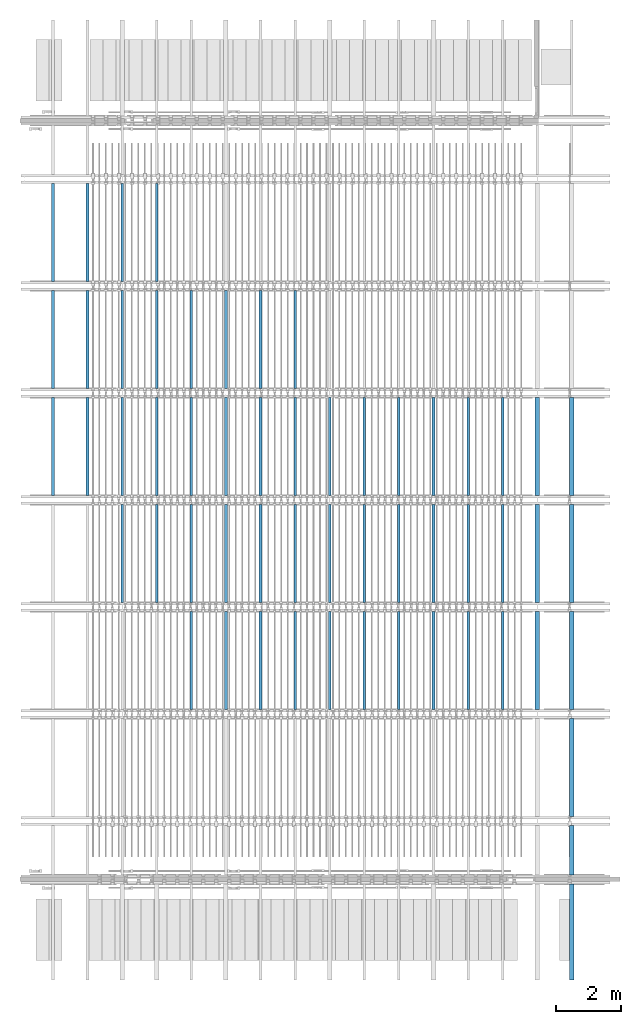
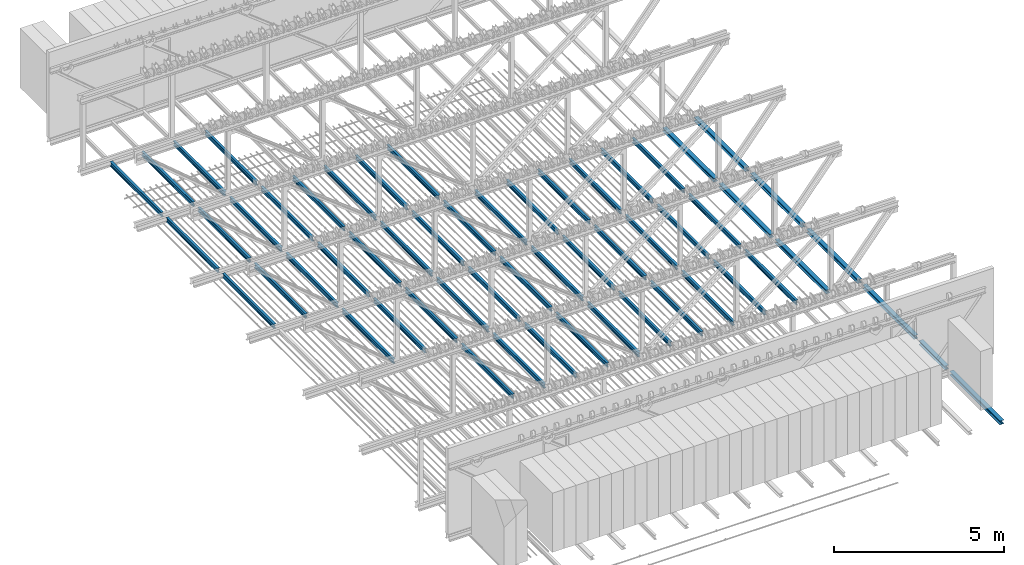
# One storey, part 2 of 8: 57 beams.
"""IFC2X3 building model written with IfcOpenShell, lengths in millimetres."""

from ifc_helpers import new_model, entity, si_unit, converted_unit, direction, frame, frame_2d, origin, place, context, subcontext, project, spatial, i_section, extrude, material, type_object, element, save


model = new_model("IFC2X3")

# Units and contexts
model_context = context("Model", 3, precision=0.01, world=origin(), true_north=direction((6.123233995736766e-17, 1.0)))
body_context = subcontext(model_context, "Body", "Model", "MODEL_VIEW")
ifc_project = project(units=[si_unit("LENGTHUNIT", "METRE", prefix="MILLI"), si_unit("AREAUNIT", "SQUARE_METRE"), converted_unit("PLANEANGLEUNIT", "DEGREE", entity("IfcPlaneAngleMeasure", 0.017453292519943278), si_unit("PLANEANGLEUNIT", "RADIAN"), dimensions=[0, 0, 0, 0, 0, 0, 0])], contexts=[model_context])

# Site, building, storey
site_placement = place(None, origin())
site = spatial("IfcSite", under=ifc_project, at=site_placement, Name="Default", CompositionType="ELEMENT")
building_placement = place(site_placement, origin())
building = spatial("IfcBuilding", under=site, at=building_placement, CompositionType="ELEMENT")
storey_placement = place(building_placement, frame((0.0, 0.0, 30550.0)))
storey = spatial("IfcBuildingStorey", under=building, at=storey_placement, Name="Rollenzolder", CompositionType="ELEMENT", Elevation=30550.000000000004)

# Beams
ifc_material = material(Name="Staal PBTA")
beam_type_1 = type_object("IfcBeamType", Name="H-Balk:HEA140", PredefinedType="BEAM")
for number, where, z_axis, x_axis, name in (
    (1, (23603.411598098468, 24672.667906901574, -30.0), (0.0, 0.0, 1.0), (0.0, 1.0, 0.0), "H-Balk:HEA140"),
    (2, (23603.411598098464, 21372.667906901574, -30.0), (0.0, 0.0, 1.0), (0.0, 1.0, 0.0), "H-Balk:HEA140"),
):
    element("IfcBeam", number, at=place(storey_placement, frame(where, z_axis=z_axis, x_axis=x_axis)), inside=storey, type_object=beam_type_1, material=ifc_material, Name=name, ObjectType="H-Balk:HEA140", context=body_context, shape_type="SweptSolid", body=[
        extrude(i_section(OverallWidth=140.0000000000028, OverallDepth=133.00000000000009, WebThickness=5.4999999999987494, FlangeThickness=8.5000000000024, FilletRadius=12.000000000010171, at=frame_2d((2.1600499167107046e-12, 2.1600499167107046e-12), x_axis=(0.0, 1.0))), frame((0.0, 0.0, -66.5000000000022), z_axis=(1.0, 0.0, 0.0), x_axis=(0.0, 0.0, -1.0)), (0.0, 0.0, 1.0), 3016.9999999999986),
    ])
beam_1_placement = place(storey_placement, frame((23603.41159809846, 18072.66790690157, -30.0), z_axis=(0.0, 0.0, 1.0), x_axis=(0.0, 1.0, 0.0)))
element("IfcBeam", 3, at=beam_1_placement, inside=storey, type_object=beam_type_1, material=ifc_material, Name="H-Balk:HEA140", ObjectType="H-Balk:HEA140", context=body_context, shape_type="SweptSolid", body=[
    extrude(i_section(OverallWidth=140.0000000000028, OverallDepth=133.00000000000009, WebThickness=5.4999999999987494, FlangeThickness=8.5000000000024, FilletRadius=12.000000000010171, at=frame_2d((2.1600499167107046e-12, 2.1600499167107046e-12), x_axis=(0.0, 1.0))), frame((0.0, 0.0, -66.5000000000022), z_axis=(1.0, 0.0, 0.0), x_axis=(0.0, 0.0, -1.0)), (0.0, 0.0, 1.0), 3017.0000000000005),
])
beam_2_placement = place(storey_placement, frame((23603.411598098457, 14772.66790690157, -30.0), z_axis=(0.0, 0.0, 1.0), x_axis=(0.0, 1.0, 0.0)))
element("IfcBeam", 4, at=beam_2_placement, inside=storey, type_object=beam_type_1, material=ifc_material, Name="H-Balk:HEA140", ObjectType="H-Balk:HEA140", context=body_context, shape_type="SweptSolid", body=[
    extrude(i_section(OverallWidth=140.0000000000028, OverallDepth=133.00000000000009, WebThickness=5.4999999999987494, FlangeThickness=8.5000000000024, FilletRadius=12.000000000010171, at=frame_2d((2.1600499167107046e-12, -2.1600499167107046e-12), x_axis=(0.0, 1.0))), frame((0.0, 0.0, -66.5000000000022), z_axis=(1.0, 0.0, 0.0), x_axis=(0.0, 0.0, -1.0)), (0.0, 0.0, 1.0), 3017.0000000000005),
])
beam_3_placement = place(storey_placement, frame((23603.411598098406, 12689.66790690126, -30.0), z_axis=(0.0, 0.0, 1.0), x_axis=(0.0, -1.0, 0.0)))
element("IfcBeam", 5, at=beam_3_placement, inside=storey, type_object=beam_type_1, material=ifc_material, Name="H-Balk:HEA140", ObjectType="H-Balk:HEA140", context=body_context, shape_type="SweptSolid", body=[
    extrude(i_section(OverallWidth=139.9999999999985, OverallDepth=132.99999999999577, WebThickness=5.4999999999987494, FlangeThickness=8.499999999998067, FilletRadius=12.000000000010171, at=frame_2d((0.0, 2.1600499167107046e-12), x_axis=(0.0, 1.0))), frame((0.24999999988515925, 0.0, -66.5000000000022), z_axis=(1.0, 0.0, 0.0), x_axis=(0.0, 0.0, -1.0)), (0.0, 0.0, 1.0), 2958.000000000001),
])
beam_4_placement = place(storey_placement, frame((23603.411598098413, 14489.667906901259, -30.0), z_axis=(0.0, 0.0, 1.0), x_axis=(0.0, -1.0, 0.0)))
element("IfcBeam", 6, at=beam_4_placement, inside=storey, type_object=beam_type_1, material=ifc_material, Name="H-Balk:HEA140", ObjectType="H-Balk:HEA140", context=body_context, shape_type="SweptSolid", body=[
    extrude(i_section(OverallWidth=140.0000000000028, OverallDepth=132.99999999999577, WebThickness=5.4999999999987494, FlangeThickness=8.499999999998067, FilletRadius=12.000000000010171, at=frame_2d((0.0, 2.1600499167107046e-12), x_axis=(0.0, 1.0))), frame((0.0, 0.0, -66.5000000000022), z_axis=(1.0, 0.0, 0.0), x_axis=(0.0, 0.0, -1.0)), (0.0, 0.0, 1.0), 1517.0000000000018),
])
for number, where, z_axis, x_axis, name in (
    (7, (22536.744931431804, 24672.667906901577, -30.0), (0.0, 0.0, 1.0), (0.0, 1.0, 0.0), "H-Balk:HEA140"),
    (8, (22536.7449314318, 21372.66790690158, -30.0), (0.0, 0.0, 1.0), (0.0, 1.0, 0.0), "H-Balk:HEA140"),
):
    element("IfcBeam", number, at=place(storey_placement, frame(where, z_axis=z_axis, x_axis=x_axis)), inside=storey, type_object=beam_type_1, material=ifc_material, Name=name, ObjectType="H-Balk:HEA140", context=body_context, shape_type="SweptSolid", body=[
        extrude(i_section(OverallWidth=140.0000000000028, OverallDepth=133.00000000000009, WebThickness=5.4999999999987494, FlangeThickness=8.5000000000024, FilletRadius=12.000000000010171, at=frame_2d((2.1600499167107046e-12, -2.1600499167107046e-12), x_axis=(0.0, 1.0))), frame((0.0, 0.0, -66.5000000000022), z_axis=(1.0, 0.0, 0.0), x_axis=(0.0, 0.0, -1.0)), (0.0, 0.0, 1.0), 3016.9999999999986),
    ])
beam_5_placement = place(storey_placement, frame((22536.744931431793, 18072.667906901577, -30.0), z_axis=(0.0, 0.0, 1.0), x_axis=(0.0, 1.0, 0.0)))
element("IfcBeam", 9, at=beam_5_placement, inside=storey, type_object=beam_type_1, material=ifc_material, Name="H-Balk:HEA140", ObjectType="H-Balk:HEA140", context=body_context, shape_type="SweptSolid", body=[
    extrude(i_section(OverallWidth=140.0000000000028, OverallDepth=133.00000000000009, WebThickness=5.4999999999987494, FlangeThickness=8.5000000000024, FilletRadius=12.000000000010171, at=frame_2d((2.1600499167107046e-12, 2.1600499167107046e-12), x_axis=(0.0, 1.0))), frame((0.0, 0.0, -66.5000000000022), z_axis=(1.0, 0.0, 0.0), x_axis=(0.0, 0.0, -1.0)), (0.0, 0.0, 1.0), 3017.0000000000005),
])
beam_type_2 = type_object("IfcBeamType", Name="IPE-Balk:IPE160", PredefinedType="BEAM")
beam_6_placement = place(storey_placement, frame((10803.411598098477, 31272.667906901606, -30.0), z_axis=(0.0, 0.0, 1.0), x_axis=(0.0, 1.0, 0.0)))
element("IfcBeam", 10, at=beam_6_placement, inside=storey, type_object=beam_type_2, material=ifc_material, Name="IPE-Balk:IPE160", ObjectType="IPE-Balk:IPE160", context=body_context, shape_type="SweptSolid", body=[
    extrude(i_section(OverallWidth=82.00000000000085, OverallDepth=159.9999999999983, WebThickness=5.0000000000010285, FlangeThickness=7.399999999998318, FilletRadius=8.999999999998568, at=frame_2d((-4.32720526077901e-12, -1.0835776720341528e-12), x_axis=(0.0, 1.0))), frame((0.0, 0.0, -80.0), z_axis=(1.0, 0.0, 0.0), x_axis=(0.0, 0.0, -1.0)), (0.0, 0.0, 1.0), 3016.9999999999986),
])
beam_7_placement = place(storey_placement, frame((10803.411598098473, 27972.66790690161, -30.0), z_axis=(0.0, 0.0, 1.0), x_axis=(0.0, 1.0, 0.0)))
element("IfcBeam", 11, at=beam_7_placement, inside=storey, type_object=beam_type_2, material=ifc_material, Name="IPE-Balk:IPE160", ObjectType="IPE-Balk:IPE160", context=body_context, shape_type="SweptSolid", body=[
    extrude(i_section(OverallWidth=82.00000000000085, OverallDepth=159.9999999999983, WebThickness=5.0000000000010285, FlangeThickness=7.399999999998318, FilletRadius=8.999999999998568, at=frame_2d((-4.32720526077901e-12, 1.0835776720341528e-12), x_axis=(0.0, 1.0))), frame((0.0, 0.0, -80.0), z_axis=(1.0, 0.0, 0.0), x_axis=(0.0, 0.0, -1.0)), (0.0, 0.0, 1.0), 3017.0000000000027),
])
beam_8_placement = place(storey_placement, frame((11870.07826476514, 27972.66790690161, -30.0), z_axis=(0.0, 0.0, 1.0), x_axis=(0.0, 1.0, 0.0)))
element("IfcBeam", 12, at=beam_8_placement, inside=storey, type_object=beam_type_2, material=ifc_material, Name="IPE-Balk:IPE160", ObjectType="IPE-Balk:IPE160", context=body_context, shape_type="SweptSolid", body=[
    extrude(i_section(OverallWidth=82.00000000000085, OverallDepth=159.9999999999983, WebThickness=5.0000000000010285, FlangeThickness=7.399999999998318, FilletRadius=8.999999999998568, at=frame_2d((-4.32720526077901e-12, -1.0835776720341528e-12), x_axis=(0.0, 1.0))), frame((0.0, 0.0, -80.0), z_axis=(1.0, 0.0, 0.0), x_axis=(0.0, 0.0, -1.0)), (0.0, 0.0, 1.0), 3017.0000000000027),
])
beam_9_placement = place(storey_placement, frame((10803.411598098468, 24672.66790690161, -30.0), z_axis=(0.0, 0.0, 1.0), x_axis=(0.0, 1.0, 0.0)))
element("IfcBeam", 13, at=beam_9_placement, inside=storey, type_object=beam_type_2, material=ifc_material, Name="IPE-Balk:IPE160", ObjectType="IPE-Balk:IPE160", context=body_context, shape_type="SweptSolid", body=[
    extrude(i_section(OverallWidth=82.00000000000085, OverallDepth=159.9999999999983, WebThickness=5.0000000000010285, FlangeThickness=7.399999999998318, FilletRadius=8.999999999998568, at=frame_2d((-4.32720526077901e-12, 1.0835776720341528e-12), x_axis=(0.0, 1.0))), frame((0.0, 0.0, -80.0), z_axis=(1.0, 0.0, 0.0), x_axis=(0.0, 0.0, -1.0)), (0.0, 0.0, 1.0), 3016.9999999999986),
])
for number, where, z_axis, x_axis, name in (
    (14, (11870.078264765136, 24672.66790690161, -30.0), (0.0, 0.0, 1.0), (0.0, 1.0, 0.0), "IPE-Balk:IPE160"),
    (15, (10803.411598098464, 21372.66790690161, -30.0), (0.0, 0.0, 1.0), (0.0, 1.0, 0.0), "IPE-Balk:IPE160"),
    (16, (11870.07826476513, 21372.66790690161, -30.0), (0.0, 0.0, 1.0), (0.0, 1.0, 0.0), "IPE-Balk:IPE160"),
):
    element("IfcBeam", number, at=place(storey_placement, frame(where, z_axis=z_axis, x_axis=x_axis)), inside=storey, type_object=beam_type_2, material=ifc_material, Name=name, ObjectType="IPE-Balk:IPE160", context=body_context, shape_type="SweptSolid", body=[
        extrude(i_section(OverallWidth=82.00000000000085, OverallDepth=159.9999999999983, WebThickness=5.0000000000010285, FlangeThickness=7.399999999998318, FilletRadius=8.999999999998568, at=frame_2d((-4.32720526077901e-12, 1.0835776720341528e-12), x_axis=(0.0, 1.0))), frame((0.0, 0.0, -80.0), z_axis=(1.0, 0.0, 0.0), x_axis=(0.0, 0.0, -1.0)), (0.0, 0.0, 1.0), 3017.0000000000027),
    ])
beam_10_placement = place(storey_placement, frame((11870.078264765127, 18072.66790690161, -30.0), z_axis=(0.0, 0.0, 1.0), x_axis=(0.0, 1.0, 0.0)))
element("IfcBeam", 17, at=beam_10_placement, inside=storey, type_object=beam_type_2, material=ifc_material, Name="IPE-Balk:IPE160", ObjectType="IPE-Balk:IPE160", context=body_context, shape_type="SweptSolid", body=[
    extrude(i_section(OverallWidth=82.00000000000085, OverallDepth=159.9999999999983, WebThickness=5.0000000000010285, FlangeThickness=7.399999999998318, FilletRadius=8.999999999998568, at=frame_2d((-4.32720526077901e-12, 1.0835776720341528e-12), x_axis=(0.0, 1.0))), frame((0.0, 0.0, -80.0), z_axis=(1.0, 0.0, 0.0), x_axis=(0.0, 0.0, -1.0)), (0.0, 0.0, 1.0), 3017.0000000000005),
])
for number, where, z_axis, x_axis, name in (
    (18, (14003.411598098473, 27972.6679069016, -30.0), (0.0, 0.0, 1.0), (0.0, 1.0, 0.0), "IPE-Balk:IPE160"),
    (19, (15070.07826476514, 27972.6679069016, -30.0), (0.0, 0.0, 1.0), (0.0, 1.0, 0.0), "IPE-Balk:IPE160"),
):
    element("IfcBeam", number, at=place(storey_placement, frame(where, z_axis=z_axis, x_axis=x_axis)), inside=storey, type_object=beam_type_2, material=ifc_material, Name=name, ObjectType="IPE-Balk:IPE160", context=body_context, shape_type="SweptSolid", body=[
        extrude(i_section(OverallWidth=82.00000000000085, OverallDepth=159.9999999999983, WebThickness=5.0000000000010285, FlangeThickness=7.399999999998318, FilletRadius=8.999999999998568, at=frame_2d((-4.32720526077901e-12, -1.0835776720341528e-12), x_axis=(0.0, 1.0))), frame((0.0, 0.0, -80.0), z_axis=(1.0, 0.0, 0.0), x_axis=(0.0, 0.0, -1.0)), (0.0, 0.0, 1.0), 3017.0000000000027),
    ])
beam_11_placement = place(storey_placement, frame((14003.41159809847, 24672.6679069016, -30.0), z_axis=(0.0, 0.0, 1.0), x_axis=(0.0, 1.0, 0.0)))
element("IfcBeam", 20, at=beam_11_placement, inside=storey, type_object=beam_type_2, material=ifc_material, Name="IPE-Balk:IPE160", ObjectType="IPE-Balk:IPE160", context=body_context, shape_type="SweptSolid", body=[
    extrude(i_section(OverallWidth=82.00000000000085, OverallDepth=159.9999999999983, WebThickness=5.0000000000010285, FlangeThickness=7.399999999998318, FilletRadius=8.999999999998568, at=frame_2d((-4.32720526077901e-12, 1.0835776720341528e-12), x_axis=(0.0, 1.0))), frame((0.0, 0.0, -80.0), z_axis=(1.0, 0.0, 0.0), x_axis=(0.0, 0.0, -1.0)), (0.0, 0.0, 1.0), 3016.9999999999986),
])
beam_12_placement = place(storey_placement, frame((15070.078264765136, 24672.6679069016, -30.0), z_axis=(0.0, 0.0, 1.0), x_axis=(0.0, 1.0, 0.0)))
element("IfcBeam", 21, at=beam_12_placement, inside=storey, type_object=beam_type_2, material=ifc_material, Name="IPE-Balk:IPE160", ObjectType="IPE-Balk:IPE160", context=body_context, shape_type="SweptSolid", body=[
    extrude(i_section(OverallWidth=82.00000000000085, OverallDepth=159.9999999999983, WebThickness=5.0000000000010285, FlangeThickness=7.399999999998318, FilletRadius=8.999999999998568, at=frame_2d((-4.32720526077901e-12, 1.0835776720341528e-12), x_axis=(0.0, 1.0))), frame((0.0, 0.0, -80.0), z_axis=(1.0, 0.0, 0.0), x_axis=(0.0, 0.0, -1.0)), (0.0, 0.0, 1.0), 3017.0000000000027),
])
for number, where, z_axis, x_axis, name in (
    (22, (14003.411598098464, 21372.667906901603, -30.0), (0.0, 0.0, 1.0), (0.0, 1.0, 0.0), "IPE-Balk:IPE160"),
    (23, (15070.078264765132, 21372.667906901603, -30.0), (0.0, 0.0, 1.0), (0.0, 1.0, 0.0), "IPE-Balk:IPE160"),
):
    element("IfcBeam", number, at=place(storey_placement, frame(where, z_axis=z_axis, x_axis=x_axis)), inside=storey, type_object=beam_type_2, material=ifc_material, Name=name, ObjectType="IPE-Balk:IPE160", context=body_context, shape_type="SweptSolid", body=[
        extrude(i_section(OverallWidth=82.00000000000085, OverallDepth=159.9999999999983, WebThickness=5.0000000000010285, FlangeThickness=7.399999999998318, FilletRadius=8.999999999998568, at=frame_2d((-4.32720526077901e-12, 3.247180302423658e-12), x_axis=(0.0, 1.0))), frame((0.0, 0.0, -80.0), z_axis=(1.0, 0.0, 0.0), x_axis=(0.0, 0.0, -1.0)), (0.0, 0.0, 1.0), 3017.0000000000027),
    ])
for number, where, z_axis, x_axis, name in (
    (24, (14003.41159809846, 18072.667906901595, -30.0), (0.0, 0.0, 1.0), (0.0, 1.0, 0.0), "IPE-Balk:IPE160"),
    (25, (15070.078264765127, 18072.6679069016, -30.0), (0.0, 0.0, 1.0), (0.0, 1.0, 0.0), "IPE-Balk:IPE160"),
):
    element("IfcBeam", number, at=place(storey_placement, frame(where, z_axis=z_axis, x_axis=x_axis)), inside=storey, type_object=beam_type_2, material=ifc_material, Name=name, ObjectType="IPE-Balk:IPE160", context=body_context, shape_type="SweptSolid", body=[
        extrude(i_section(OverallWidth=82.00000000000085, OverallDepth=159.9999999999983, WebThickness=5.0000000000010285, FlangeThickness=7.399999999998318, FilletRadius=8.999999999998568, at=frame_2d((-4.32720526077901e-12, 1.0835776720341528e-12), x_axis=(0.0, 1.0))), frame((0.0, 0.0, -80.0), z_axis=(1.0, 0.0, 0.0), x_axis=(0.0, 0.0, -1.0)), (0.0, 0.0, 1.0), 3017.0000000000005),
    ])
beam_13_placement = place(storey_placement, frame((17203.411598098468, 24672.66790690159, -30.0), z_axis=(0.0, 0.0, 1.0), x_axis=(0.0, 1.0, 0.0)))
element("IfcBeam", 26, at=beam_13_placement, inside=storey, type_object=beam_type_2, material=ifc_material, Name="IPE-Balk:IPE160", ObjectType="IPE-Balk:IPE160", context=body_context, shape_type="SweptSolid", body=[
    extrude(i_section(OverallWidth=82.00000000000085, OverallDepth=159.9999999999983, WebThickness=5.0000000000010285, FlangeThickness=7.399999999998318, FilletRadius=8.999999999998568, at=frame_2d((-4.32720526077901e-12, 1.0835776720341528e-12), x_axis=(0.0, 1.0))), frame((0.0, 0.0, -80.0), z_axis=(1.0, 0.0, 0.0), x_axis=(0.0, 0.0, -1.0)), (0.0, 0.0, 1.0), 3016.9999999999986),
])
beam_14_placement = place(storey_placement, frame((18270.078264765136, 24672.66790690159, -30.0), z_axis=(0.0, 0.0, 1.0), x_axis=(0.0, 1.0, 0.0)))
element("IfcBeam", 27, at=beam_14_placement, inside=storey, type_object=beam_type_2, material=ifc_material, Name="IPE-Balk:IPE160", ObjectType="IPE-Balk:IPE160", context=body_context, shape_type="SweptSolid", body=[
    extrude(i_section(OverallWidth=82.00000000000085, OverallDepth=159.9999999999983, WebThickness=5.0000000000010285, FlangeThickness=7.399999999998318, FilletRadius=8.999999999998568, at=frame_2d((-4.32720526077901e-12, 1.0835776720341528e-12), x_axis=(0.0, 1.0))), frame((0.0, 0.0, -80.0), z_axis=(1.0, 0.0, 0.0), x_axis=(0.0, 0.0, -1.0)), (0.0, 0.0, 1.0), 3017.0000000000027),
])
for number, where, z_axis, x_axis, name in (
    (28, (17203.411598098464, 21372.66790690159, -30.0), (0.0, 0.0, 1.0), (0.0, 1.0, 0.0), "IPE-Balk:IPE160"),
    (29, (18270.078264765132, 21372.66790690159, -30.0), (0.0, 0.0, 1.0), (0.0, 1.0, 0.0), "IPE-Balk:IPE160"),
):
    element("IfcBeam", number, at=place(storey_placement, frame(where, z_axis=z_axis, x_axis=x_axis)), inside=storey, type_object=beam_type_2, material=ifc_material, Name=name, ObjectType="IPE-Balk:IPE160", context=body_context, shape_type="SweptSolid", body=[
        extrude(i_section(OverallWidth=82.00000000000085, OverallDepth=159.9999999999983, WebThickness=5.0000000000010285, FlangeThickness=7.399999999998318, FilletRadius=8.999999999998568, at=frame_2d((-4.32720526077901e-12, 3.247180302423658e-12), x_axis=(0.0, 1.0))), frame((0.0, 0.0, -80.0), z_axis=(1.0, 0.0, 0.0), x_axis=(0.0, 0.0, -1.0)), (0.0, 0.0, 1.0), 3017.0000000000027),
    ])
beam_15_placement = place(storey_placement, frame((17203.41159809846, 18072.667906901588, -30.0), z_axis=(0.0, 0.0, 1.0), x_axis=(0.0, 1.0, 0.0)))
element("IfcBeam", 30, at=beam_15_placement, inside=storey, type_object=beam_type_2, material=ifc_material, Name="IPE-Balk:IPE160", ObjectType="IPE-Balk:IPE160", context=body_context, shape_type="SweptSolid", body=[
    extrude(i_section(OverallWidth=82.00000000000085, OverallDepth=159.9999999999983, WebThickness=5.0000000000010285, FlangeThickness=7.399999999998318, FilletRadius=8.999999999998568, at=frame_2d((-4.32720526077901e-12, 1.0835776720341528e-12), x_axis=(0.0, 1.0))), frame((0.0, 0.0, -80.0), z_axis=(1.0, 0.0, 0.0), x_axis=(0.0, 0.0, -1.0)), (0.0, 0.0, 1.0), 3017.0000000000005),
])
beam_16_placement = place(storey_placement, frame((18270.07826476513, 18072.66790690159, -30.0), z_axis=(0.0, 0.0, 1.0), x_axis=(0.0, 1.0, 0.0)))
element("IfcBeam", 31, at=beam_16_placement, inside=storey, type_object=beam_type_2, material=ifc_material, Name="IPE-Balk:IPE160", ObjectType="IPE-Balk:IPE160", context=body_context, shape_type="SweptSolid", body=[
    extrude(i_section(OverallWidth=82.00000000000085, OverallDepth=159.9999999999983, WebThickness=5.0000000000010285, FlangeThickness=7.399999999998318, FilletRadius=8.999999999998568, at=frame_2d((-4.32720526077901e-12, 3.247180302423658e-12), x_axis=(0.0, 1.0))), frame((0.0, 0.0, -80.0), z_axis=(1.0, 0.0, 0.0), x_axis=(0.0, 0.0, -1.0)), (0.0, 0.0, 1.0), 3017.0000000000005),
])
beam_17_placement = place(storey_placement, frame((20403.411598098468, 24672.667906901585, -30.0), z_axis=(0.0, 0.0, 1.0), x_axis=(0.0, 1.0, 0.0)))
element("IfcBeam", 32, at=beam_17_placement, inside=storey, type_object=beam_type_2, material=ifc_material, Name="IPE-Balk:IPE160", ObjectType="IPE-Balk:IPE160", context=body_context, shape_type="SweptSolid", body=[
    extrude(i_section(OverallWidth=81.99999999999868, OverallDepth=159.9999999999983, WebThickness=4.999999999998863, FlangeThickness=7.399999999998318, FilletRadius=8.999999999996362, at=frame_2d((-4.32720526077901e-12, 0.0), x_axis=(0.0, 1.0))), frame((0.0, 0.0, -80.0), z_axis=(1.0, 0.0, 0.0), x_axis=(0.0, 0.0, -1.0)), (0.0, 0.0, 1.0), 3016.9999999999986),
])
for number, where, z_axis, x_axis, name in (
    (33, (21470.078264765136, 24672.667906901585, -30.0), (0.0, 0.0, 1.0), (0.0, 1.0, 0.0), "IPE-Balk:IPE160"),
    (34, (20403.411598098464, 21372.667906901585, -30.0), (0.0, 0.0, 1.0), (0.0, 1.0, 0.0), "IPE-Balk:IPE160"),
    (35, (21470.078264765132, 21372.667906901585, -30.0), (0.0, 0.0, 1.0), (0.0, 1.0, 0.0), "IPE-Balk:IPE160"),
):
    element("IfcBeam", number, at=place(storey_placement, frame(where, z_axis=z_axis, x_axis=x_axis)), inside=storey, type_object=beam_type_2, material=ifc_material, Name=name, ObjectType="IPE-Balk:IPE160", context=body_context, shape_type="SweptSolid", body=[
        extrude(i_section(OverallWidth=81.99999999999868, OverallDepth=159.9999999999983, WebThickness=4.999999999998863, FlangeThickness=7.399999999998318, FilletRadius=8.999999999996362, at=frame_2d((-4.32720526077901e-12, 0.0), x_axis=(0.0, 1.0))), frame((0.0, 0.0, -80.0), z_axis=(1.0, 0.0, 0.0), x_axis=(0.0, 0.0, -1.0)), (0.0, 0.0, 1.0), 3017.0000000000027),
    ])
beam_18_placement = place(storey_placement, frame((20403.41159809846, 18072.667906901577, -30.0), z_axis=(0.0, 0.0, 1.0), x_axis=(0.0, 1.0, 0.0)))
element("IfcBeam", 36, at=beam_18_placement, inside=storey, type_object=beam_type_2, material=ifc_material, Name="IPE-Balk:IPE160", ObjectType="IPE-Balk:IPE160", context=body_context, shape_type="SweptSolid", body=[
    extrude(i_section(OverallWidth=81.99999999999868, OverallDepth=159.9999999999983, WebThickness=4.999999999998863, FlangeThickness=7.399999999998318, FilletRadius=8.999999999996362, at=frame_2d((-4.32720526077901e-12, 4.330757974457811e-12), x_axis=(0.0, 1.0))), frame((0.0, 0.0, -80.0), z_axis=(1.0, 0.0, 0.0), x_axis=(0.0, 0.0, -1.0)), (0.0, 0.0, 1.0), 3017.0000000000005),
])
beam_19_placement = place(storey_placement, frame((21470.07826476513, 18072.66790690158, -30.0), z_axis=(0.0, 0.0, 1.0), x_axis=(0.0, 1.0, 0.0)))
element("IfcBeam", 37, at=beam_19_placement, inside=storey, type_object=beam_type_2, material=ifc_material, Name="IPE-Balk:IPE160", ObjectType="IPE-Balk:IPE160", context=body_context, shape_type="SweptSolid", body=[
    extrude(i_section(OverallWidth=81.99999999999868, OverallDepth=159.9999999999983, WebThickness=4.999999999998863, FlangeThickness=7.399999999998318, FilletRadius=8.999999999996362, at=frame_2d((-4.32720526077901e-12, 0.0), x_axis=(0.0, 1.0))), frame((0.0, 0.0, -80.0), z_axis=(1.0, 0.0, 0.0), x_axis=(0.0, 0.0, -1.0)), (0.0, 0.0, 1.0), 3017.0000000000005),
])
beam_20_placement = place(storey_placement, frame((7603.411598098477, 31272.667906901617, -30.0), z_axis=(0.0, 0.0, 1.0), x_axis=(0.0, 1.0, 0.0)))
element("IfcBeam", 38, at=beam_20_placement, inside=storey, type_object=beam_type_2, material=ifc_material, Name="IPE-Balk:IPE160", ObjectType="IPE-Balk:IPE160", context=body_context, shape_type="SweptSolid", body=[
    extrude(i_section(OverallWidth=81.99999999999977, OverallDepth=159.9999999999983, WebThickness=4.999999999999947, FlangeThickness=7.399999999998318, FilletRadius=8.999999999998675, at=frame_2d((-4.32720526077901e-12, -5.435651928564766e-13), x_axis=(0.0, 1.0))), frame((0.0, 0.0, -80.0), z_axis=(1.0, 0.0, 0.0), x_axis=(0.0, 0.0, -1.0)), (0.0, 0.0, 1.0), 3016.9999999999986),
])
beam_21_placement = place(storey_placement, frame((8670.078264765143, 31272.667906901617, -30.0), z_axis=(0.0, 0.0, 1.0), x_axis=(0.0, 1.0, 0.0)))
element("IfcBeam", 39, at=beam_21_placement, inside=storey, type_object=beam_type_2, material=ifc_material, Name="IPE-Balk:IPE160", ObjectType="IPE-Balk:IPE160", context=body_context, shape_type="SweptSolid", body=[
    extrude(i_section(OverallWidth=81.99999999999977, OverallDepth=159.9999999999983, WebThickness=4.999999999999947, FlangeThickness=7.399999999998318, FilletRadius=8.999999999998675, at=frame_2d((-4.32720526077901e-12, -1.623590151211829e-12), x_axis=(0.0, 1.0))), frame((0.0, 0.0, -80.0), z_axis=(1.0, 0.0, 0.0), x_axis=(0.0, 0.0, -1.0)), (0.0, 0.0, 1.0), 3017.0000000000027),
])
for number, where, z_axis, x_axis, name in (
    (40, (7603.4115980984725, 27972.667906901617, -30.0), (0.0, 0.0, 1.0), (0.0, 1.0, 0.0), "IPE-Balk:IPE160"),
    (41, (8670.07826476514, 27972.667906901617, -30.0), (0.0, 0.0, 1.0), (0.0, 1.0, 0.0), "IPE-Balk:IPE160"),
):
    element("IfcBeam", number, at=place(storey_placement, frame(where, z_axis=z_axis, x_axis=x_axis)), inside=storey, type_object=beam_type_2, material=ifc_material, Name=name, ObjectType="IPE-Balk:IPE160", context=body_context, shape_type="SweptSolid", body=[
        extrude(i_section(OverallWidth=81.99999999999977, OverallDepth=159.9999999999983, WebThickness=4.999999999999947, FlangeThickness=7.399999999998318, FilletRadius=8.999999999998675, at=frame_2d((-4.32720526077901e-12, -5.435651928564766e-13), x_axis=(0.0, 1.0))), frame((0.0, 0.0, -80.0), z_axis=(1.0, 0.0, 0.0), x_axis=(0.0, 0.0, -1.0)), (0.0, 0.0, 1.0), 3017.0000000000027),
    ])
beam_22_placement = place(storey_placement, frame((7603.411598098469, 24672.667906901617, -30.0), z_axis=(0.0, 0.0, 1.0), x_axis=(0.0, 1.0, 0.0)))
element("IfcBeam", 42, at=beam_22_placement, inside=storey, type_object=beam_type_2, material=ifc_material, Name="IPE-Balk:IPE160", ObjectType="IPE-Balk:IPE160", context=body_context, shape_type="SweptSolid", body=[
    extrude(i_section(OverallWidth=81.99999999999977, OverallDepth=159.9999999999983, WebThickness=4.999999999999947, FlangeThickness=7.399999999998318, FilletRadius=8.999999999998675, at=frame_2d((-4.32720526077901e-12, 1.623590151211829e-12), x_axis=(0.0, 1.0))), frame((0.0, 0.0, -80.0), z_axis=(1.0, 0.0, 0.0), x_axis=(0.0, 0.0, -1.0)), (0.0, 0.0, 1.0), 3016.9999999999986),
])
beam_23_placement = place(storey_placement, frame((8670.078264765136, 24672.667906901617, -30.0), z_axis=(0.0, 0.0, 1.0), x_axis=(0.0, 1.0, 0.0)))
element("IfcBeam", 43, at=beam_23_placement, inside=storey, type_object=beam_type_2, material=ifc_material, Name="IPE-Balk:IPE160", ObjectType="IPE-Balk:IPE160", context=body_context, shape_type="SweptSolid", body=[
    extrude(i_section(OverallWidth=81.99999999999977, OverallDepth=159.9999999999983, WebThickness=4.999999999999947, FlangeThickness=7.399999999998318, FilletRadius=8.999999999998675, at=frame_2d((-4.32720526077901e-12, 1.623590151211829e-12), x_axis=(0.0, 1.0))), frame((0.0, 0.0, -80.0), z_axis=(1.0, 0.0, 0.0), x_axis=(0.0, 0.0, -1.0)), (0.0, 0.0, 1.0), 3017.0000000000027),
])
beam_24_placement = place(storey_placement, frame((9736.74493143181, 31272.66790690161, -30.0), z_axis=(0.0, 0.0, 1.0), x_axis=(0.0, 1.0, 0.0)))
element("IfcBeam", 44, at=beam_24_placement, inside=storey, type_object=beam_type_2, material=ifc_material, Name="IPE-Balk:IPE160", ObjectType="IPE-Balk:IPE160", context=body_context, shape_type="SweptSolid", body=[
    extrude(i_section(OverallWidth=82.00000000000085, OverallDepth=159.9999999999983, WebThickness=4.999999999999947, FlangeThickness=7.399999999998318, FilletRadius=8.999999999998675, at=frame_2d((-4.32720526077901e-12, -2.1671553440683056e-12), x_axis=(0.0, 1.0))), frame((0.0, 0.0, -80.0), z_axis=(1.0, 0.0, 0.0), x_axis=(0.0, 0.0, -1.0)), (0.0, 0.0, 1.0), 3017.0000000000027),
])
beam_25_placement = place(storey_placement, frame((12936.744931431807, 27972.667906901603, -30.0), z_axis=(0.0, 0.0, 1.0), x_axis=(0.0, 1.0, 0.0)))
element("IfcBeam", 45, at=beam_25_placement, inside=storey, type_object=beam_type_2, material=ifc_material, Name="IPE-Balk:IPE160", ObjectType="IPE-Balk:IPE160", context=body_context, shape_type="SweptSolid", body=[
    extrude(i_section(OverallWidth=82.00000000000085, OverallDepth=159.9999999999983, WebThickness=5.0000000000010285, FlangeThickness=7.399999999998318, FilletRadius=8.999999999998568, at=frame_2d((-4.32720526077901e-12, -1.0835776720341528e-12), x_axis=(0.0, 1.0))), frame((0.0, 0.0, -80.0), z_axis=(1.0, 0.0, 0.0), x_axis=(0.0, 0.0, -1.0)), (0.0, 0.0, 1.0), 3017.0000000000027),
])
beam_26_placement = place(storey_placement, frame((9736.744931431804, 27972.667906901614, -30.0), z_axis=(0.0, 0.0, 1.0), x_axis=(0.0, 1.0, 0.0)))
element("IfcBeam", 46, at=beam_26_placement, inside=storey, type_object=beam_type_2, material=ifc_material, Name="IPE-Balk:IPE160", ObjectType="IPE-Balk:IPE160", context=body_context, shape_type="SweptSolid", body=[
    extrude(i_section(OverallWidth=81.99999999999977, OverallDepth=159.9999999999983, WebThickness=4.999999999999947, FlangeThickness=7.399999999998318, FilletRadius=8.999999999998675, at=frame_2d((-4.32720526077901e-12, 5.435651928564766e-13), x_axis=(0.0, 1.0))), frame((0.0, 0.0, -80.0), z_axis=(1.0, 0.0, 0.0), x_axis=(0.0, 0.0, -1.0)), (0.0, 0.0, 1.0), 3017.0000000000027),
])
for number, where, z_axis, x_axis, name in (
    (47, (12936.744931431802, 24672.667906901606, -30.0), (0.0, 0.0, 1.0), (0.0, 1.0, 0.0), "IPE-Balk:IPE160"),
    (48, (16136.744931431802, 24672.667906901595, -30.0), (0.0, 0.0, 1.0), (0.0, 1.0, 0.0), "IPE-Balk:IPE160"),
    (49, (19336.744931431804, 24672.667906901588, -30.0), (0.0, 0.0, 1.0), (0.0, 1.0, 0.0), "IPE-Balk:IPE160"),
):
    element("IfcBeam", number, at=place(storey_placement, frame(where, z_axis=z_axis, x_axis=x_axis)), inside=storey, type_object=beam_type_2, material=ifc_material, Name=name, ObjectType="IPE-Balk:IPE160", context=body_context, shape_type="SweptSolid", body=[
        extrude(i_section(OverallWidth=82.00000000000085, OverallDepth=159.9999999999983, WebThickness=5.0000000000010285, FlangeThickness=7.399999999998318, FilletRadius=8.999999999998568, at=frame_2d((-4.32720526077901e-12, 1.0835776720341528e-12), x_axis=(0.0, 1.0))), frame((0.0, 0.0, -80.0), z_axis=(1.0, 0.0, 0.0), x_axis=(0.0, 0.0, -1.0)), (0.0, 0.0, 1.0), 3017.0000000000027),
    ])
beam_27_placement = place(storey_placement, frame((9736.744931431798, 24672.667906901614, -30.0), z_axis=(0.0, 0.0, 1.0), x_axis=(0.0, 1.0, 0.0)))
element("IfcBeam", 50, at=beam_27_placement, inside=storey, type_object=beam_type_2, material=ifc_material, Name="IPE-Balk:IPE160", ObjectType="IPE-Balk:IPE160", context=body_context, shape_type="SweptSolid", body=[
    extrude(i_section(OverallWidth=82.00000000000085, OverallDepth=159.9999999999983, WebThickness=4.999999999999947, FlangeThickness=7.399999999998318, FilletRadius=8.999999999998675, at=frame_2d((-4.32720526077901e-12, 1.0835776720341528e-12), x_axis=(0.0, 1.0))), frame((0.0, 0.0, -80.0), z_axis=(1.0, 0.0, 0.0), x_axis=(0.0, 0.0, -1.0)), (0.0, 0.0, 1.0), 3017.0000000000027),
])
beam_28_placement = place(storey_placement, frame((12936.744931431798, 21372.667906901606, -30.0), z_axis=(0.0, 0.0, 1.0), x_axis=(0.0, 1.0, 0.0)))
element("IfcBeam", 51, at=beam_28_placement, inside=storey, type_object=beam_type_2, material=ifc_material, Name="IPE-Balk:IPE160", ObjectType="IPE-Balk:IPE160", context=body_context, shape_type="SweptSolid", body=[
    extrude(i_section(OverallWidth=82.00000000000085, OverallDepth=159.9999999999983, WebThickness=5.0000000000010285, FlangeThickness=7.399999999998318, FilletRadius=8.999999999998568, at=frame_2d((-4.32720526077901e-12, 1.0835776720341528e-12), x_axis=(0.0, 1.0))), frame((0.0, 0.0, -80.0), z_axis=(1.0, 0.0, 0.0), x_axis=(0.0, 0.0, -1.0)), (0.0, 0.0, 1.0), 3017.0000000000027),
])
for number, where, z_axis, x_axis, name in (
    (52, (16136.744931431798, 21372.667906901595, -30.0), (0.0, 0.0, 1.0), (0.0, 1.0, 0.0), "IPE-Balk:IPE160"),
    (53, (19336.7449314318, 21372.667906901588, -30.0), (0.0, 0.0, 1.0), (0.0, 1.0, 0.0), "IPE-Balk:IPE160"),
):
    element("IfcBeam", number, at=place(storey_placement, frame(where, z_axis=z_axis, x_axis=x_axis)), inside=storey, type_object=beam_type_2, material=ifc_material, Name=name, ObjectType="IPE-Balk:IPE160", context=body_context, shape_type="SweptSolid", body=[
        extrude(i_section(OverallWidth=82.00000000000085, OverallDepth=159.9999999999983, WebThickness=5.0000000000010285, FlangeThickness=7.399999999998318, FilletRadius=8.999999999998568, at=frame_2d((-4.32720526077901e-12, 3.247180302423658e-12), x_axis=(0.0, 1.0))), frame((0.0, 0.0, -80.0), z_axis=(1.0, 0.0, 0.0), x_axis=(0.0, 0.0, -1.0)), (0.0, 0.0, 1.0), 3017.0000000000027),
    ])
beam_29_placement = place(storey_placement, frame((9736.744931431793, 21372.667906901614, -30.0), z_axis=(0.0, 0.0, 1.0), x_axis=(0.0, 1.0, 0.0)))
element("IfcBeam", 54, at=beam_29_placement, inside=storey, type_object=beam_type_2, material=ifc_material, Name="IPE-Balk:IPE160", ObjectType="IPE-Balk:IPE160", context=body_context, shape_type="SweptSolid", body=[
    extrude(i_section(OverallWidth=81.99999999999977, OverallDepth=159.9999999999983, WebThickness=4.999999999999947, FlangeThickness=7.399999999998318, FilletRadius=8.999999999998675, at=frame_2d((-4.32720526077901e-12, -1.623590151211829e-12), x_axis=(0.0, 1.0))), frame((0.0, 0.0, -80.0), z_axis=(1.0, 0.0, 0.0), x_axis=(0.0, 0.0, -1.0)), (0.0, 0.0, 1.0), 3017.0000000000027),
])
for number, where, z_axis, x_axis, name in (
    (55, (12936.744931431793, 18072.667906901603, -30.0), (0.0, 0.0, 1.0), (0.0, 1.0, 0.0), "IPE-Balk:IPE160"),
    (56, (16136.744931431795, 18072.667906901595, -30.0), (0.0, 0.0, 1.0), (0.0, 1.0, 0.0), "IPE-Balk:IPE160"),
):
    element("IfcBeam", number, at=place(storey_placement, frame(where, z_axis=z_axis, x_axis=x_axis)), inside=storey, type_object=beam_type_2, material=ifc_material, Name=name, ObjectType="IPE-Balk:IPE160", context=body_context, shape_type="SweptSolid", body=[
        extrude(i_section(OverallWidth=82.00000000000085, OverallDepth=159.9999999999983, WebThickness=5.0000000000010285, FlangeThickness=7.399999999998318, FilletRadius=8.999999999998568, at=frame_2d((-4.32720526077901e-12, 1.0835776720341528e-12), x_axis=(0.0, 1.0))), frame((0.0, 0.0, -80.0), z_axis=(1.0, 0.0, 0.0), x_axis=(0.0, 0.0, -1.0)), (0.0, 0.0, 1.0), 3017.0000000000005),
    ])
beam_30_placement = place(storey_placement, frame((19336.744931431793, 18072.667906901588, -30.0), z_axis=(0.0, 0.0, 1.0), x_axis=(0.0, 1.0, 0.0)))
element("IfcBeam", 57, at=beam_30_placement, inside=storey, type_object=beam_type_2, material=ifc_material, Name="IPE-Balk:IPE160", ObjectType="IPE-Balk:IPE160", context=body_context, shape_type="SweptSolid", body=[
    extrude(i_section(OverallWidth=82.00000000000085, OverallDepth=159.9999999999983, WebThickness=5.0000000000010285, FlangeThickness=7.399999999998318, FilletRadius=8.999999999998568, at=frame_2d((-4.32720526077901e-12, 3.247180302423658e-12), x_axis=(0.0, 1.0))), frame((0.0, 0.0, -80.0), z_axis=(1.0, 0.0, 0.0), x_axis=(0.0, 0.0, -1.0)), (0.0, 0.0, 1.0), 3017.0000000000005),
])

save(model, "model.ifc")
